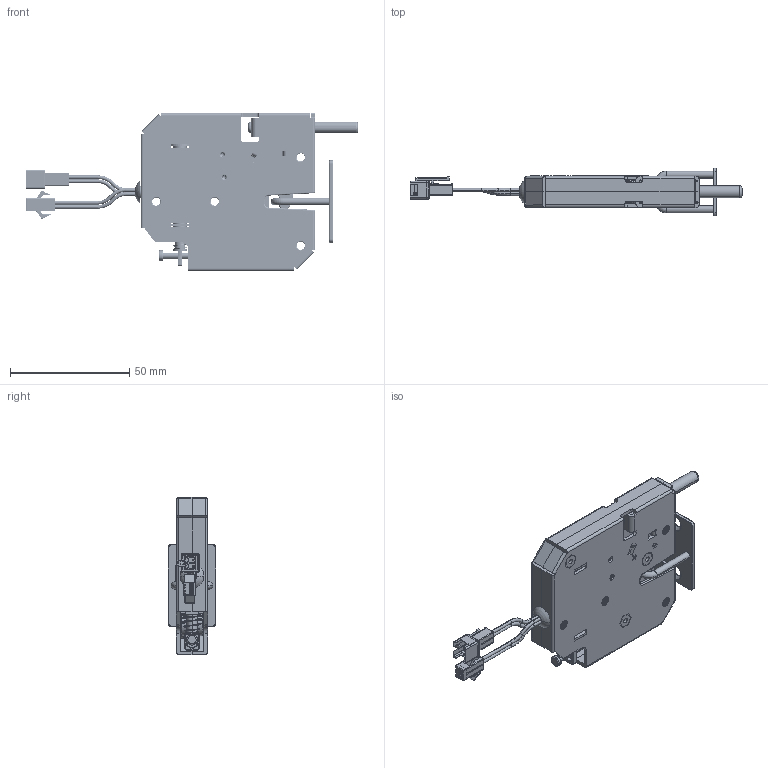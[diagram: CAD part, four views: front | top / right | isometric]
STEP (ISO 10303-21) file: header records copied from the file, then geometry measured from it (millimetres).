
FILE_DESCRIPTION((''),'2;1');
FILE_NAME('XG07D0003_ASM','2025-01-17T17:01:51',('PRIME'),(''),'CREO PARAMETRIC BY PTC INC, 2023073','CREO PARAMETRIC BY PTC INC, 2023073','');
FILE_SCHEMA(('CONFIG_CONTROL_DESIGN','SHAPE_APPEARANCE_LAYERS_GROUPS'));
Products named in the file (18): _XG07D00; U-XG07D00; L-XG07D00; _0001; _0002; _0003; _0004; _0005; _XG07C000_ASM; _XG07C0002; _XG07D0004; _XG00; M3-0001; 0001; _-0001; XG07D0003_ASM
Assembly tree (19 placements, depth 3):
  XG07D0003_ASM
    _XG07D00
    _XG07D00
    U-XG07D00
    L-XG07D00
    _XG07D00
    _0001
    _XG07C000_ASM
      _0002
      _0003
      _0004
      _0005
    _XG07C0002
    _XG07D0004
    _XG00
    M3-0001  x3
    0001
    _-0001
Bounding box: 139 x 20 x 66 mm (x, y, z)
Volume: 25877.8 mm3; surface area: 39031.4 mm2
Topology: 24 solids, 24 shells, 3101 faces, 7995 edges, 5069 vertices
Faces by surface type: plane 1107, cylinder 745, extrusion 558, bspline 403, torus 186, cone 84, sphere 18
Entity records: 160635 total; most frequent: CARTESIAN_POINT 58643, ORIENTED_EDGE 15090, DIRECTION 11762, EDGE_CURVE 7545, PRESENTATION_STYLE_ASSIGNMENT 7241, STYLED_ITEM 6531, VERTEX_POINT 4795, VECTOR 4518
